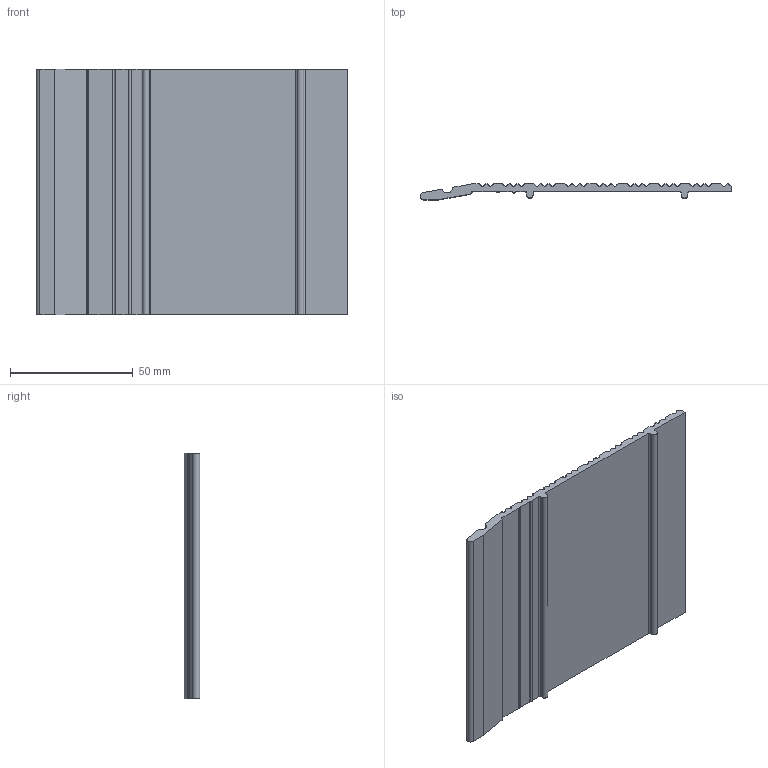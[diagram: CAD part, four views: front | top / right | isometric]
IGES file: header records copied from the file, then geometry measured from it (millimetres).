
Global section: file name: No Iges File Name specified; native system: Autodesk Inventor 2012; preprocessor: AutoDesk Inventor Iges Exporter R2012; author: anna.b; date: 20130718.120840; units: millimetre
Bounding box: 127.01 x 6.35 x 100 mm (x, y, z)
Volume: 37707 mm3; surface area: 29449.6 mm2
Topology: 1 solids, 1 shells, 135 faces, 399 edges, 266 vertices
Faces by surface type: cylinder 59, plane 43, revolution 33
